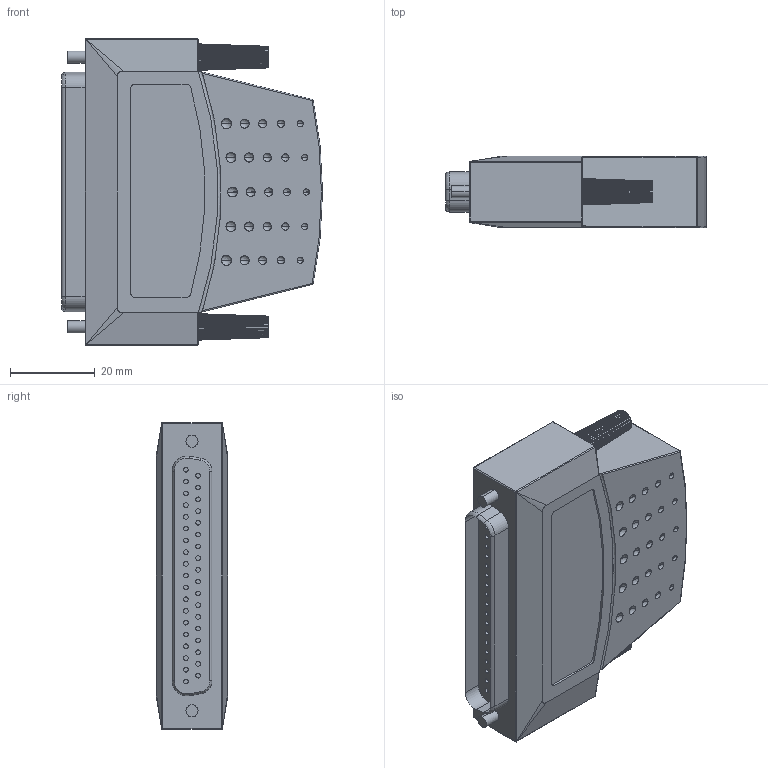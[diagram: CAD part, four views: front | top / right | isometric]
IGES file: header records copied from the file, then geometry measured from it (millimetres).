
Start section:  PTC IGES file: dsub_cable_backshell_37_pos.igs
Global section: file name: dsub_cable_backshell_37_pos.igs; native system: Pro/ENGINEER by Parametric Technology Corporation; preprocessor: 2006080; author: chrisj; organization: Unknown; date: 070126.142153; units: inch
Bounding box: 61.41 x 16.76 x 72.14 mm (x, y, z)
Surface area: 12628.7 mm2 (no closed solid volume)
Topology: 0 solids, 0 shells, 684 faces, 3640 edges, 3540 vertices
Faces by surface type: bspline 355, revolution 329
